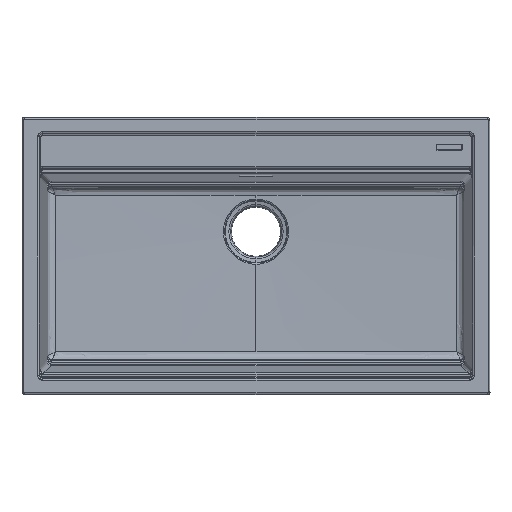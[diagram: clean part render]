
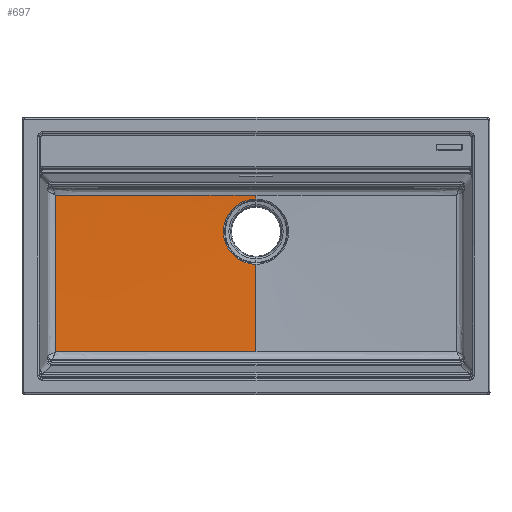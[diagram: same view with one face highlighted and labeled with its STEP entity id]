
A CAD part, top view. The second image highlights one B-rep face of the part: STEP entity #697.
In plain terms, the highlighted conical face has half-angle 88.5 degrees and reference radius 431.481 mm.
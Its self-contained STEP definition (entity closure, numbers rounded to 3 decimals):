
#413=(
BOUNDED_CURVE()
B_SPLINE_CURVE(3,(#10576,#10577,#10578,#10579,#10580,#10581,#10582,#10583,
#10584,#10585,#10586,#10587,#10588,#10589,#10590,#10591,#10592,#10593,#10594,
#10595,#10596,#10597,#10598,#10599,#10600,#10601),.UNSPECIFIED.,.F.,.F.)
B_SPLINE_CURVE_WITH_KNOTS((4,2,2,2,2,2,2,2,2,2,2,2,4),(0.,0.227,
0.356,0.484,0.549,0.613,0.678,
0.742,0.807,0.871,0.936,
0.968,1.),.UNSPECIFIED.)
CURVE()
GEOMETRIC_REPRESENTATION_ITEM()
RATIONAL_B_SPLINE_CURVE((1.,1.,1.,1.,1.,1.,1.,1.,1.,1.,1.,1.,1.,1.,1.,1.,
1.,1.,1.,1.,1.,1.,1.,1.,1.,1.))
REPRESENTATION_ITEM('')
);
#414=(
BOUNDED_CURVE()
B_SPLINE_CURVE(3,(#10610,#10611,#10612,#10613,#10614,#10615,#10616,#10617,
#10618,#10619,#10620,#10621),.UNSPECIFIED.,.F.,.F.)
B_SPLINE_CURVE_WITH_KNOTS((4,2,2,2,2,4),(0.,0.306,0.653,
0.826,0.999,1.),.UNSPECIFIED.)
CURVE()
GEOMETRIC_REPRESENTATION_ITEM()
RATIONAL_B_SPLINE_CURVE((1.,1.,1.,
1.,1.,1.,1.,
1.,1.,1.,1.,1.))
REPRESENTATION_ITEM('')
);
#415=(
BOUNDED_CURVE()
B_SPLINE_CURVE(3,(#10623,#10624,#10625,#10626,#10627,#10628,#10629,#10630,
#10631,#10632,#10633,#10634,#10635,#10636,#10637,#10638,#10639,#10640,#10641,
#10642),.UNSPECIFIED.,.F.,.F.)
B_SPLINE_CURVE_WITH_KNOTS((4,2,2,2,2,2,2,2,2,4),(0.,0.,
0.129,0.258,0.387,0.516,0.645,
0.773,0.902,1.),.UNSPECIFIED.)
CURVE()
GEOMETRIC_REPRESENTATION_ITEM()
RATIONAL_B_SPLINE_CURVE((1.,1.,1.,
1.,1.,1.,1.,
1.,1.,1.,1.,
1.,1.,1.,1.,
1.,1.,1.,1.,
1.))
REPRESENTATION_ITEM('')
);
#697=ADVANCED_FACE('',(#1227),#1179,.F.);
#1179=CONICAL_SURFACE('',#7836,431.481,88.5);
#1227=FACE_OUTER_BOUND('',#1712,.T.);
#1712=EDGE_LOOP('',(#3287,#3288,#3289,#3290,#3291,#3292,#3293,#3294));
#2222=B_SPLINE_CURVE_WITH_KNOTS('',3,(#10603,#10604,#10605,#10606,#10607,
#10608),.UNSPECIFIED.,.F.,.F.,(4,2,4),(0.,0.563,1.),
 .UNSPECIFIED.);
#2628=LINE('',#10574,#2930);
#2629=LINE('',#10644,#2931);
#2930=VECTOR('',#8634,1.);
#2931=VECTOR('',#8635,1.);
#3287=ORIENTED_EDGE('',*,*,#6308,.F.);
#3288=ORIENTED_EDGE('',*,*,#6309,.F.);
#3289=ORIENTED_EDGE('',*,*,#6310,.F.);
#3290=ORIENTED_EDGE('',*,*,#6311,.F.);
#3291=ORIENTED_EDGE('',*,*,#6312,.F.);
#3292=ORIENTED_EDGE('',*,*,#6313,.F.);
#3293=ORIENTED_EDGE('',*,*,#6314,.T.);
#3294=ORIENTED_EDGE('',*,*,#6315,.F.);
#5619=VERTEX_POINT('',#10572);
#5620=VERTEX_POINT('',#10573);
#5621=VERTEX_POINT('',#10575);
#5622=VERTEX_POINT('',#10602);
#5623=VERTEX_POINT('',#10609);
#5624=VERTEX_POINT('',#10622);
#5625=VERTEX_POINT('',#10643);
#5626=VERTEX_POINT('',#10645);
#6308=EDGE_CURVE('',#5619,#5620,#7422,.T.);
#6309=EDGE_CURVE('',#5621,#5619,#2628,.T.);
#6310=EDGE_CURVE('',#5622,#5621,#413,.T.);
#6311=EDGE_CURVE('',#5623,#5622,#2222,.T.);
#6312=EDGE_CURVE('',#5624,#5623,#414,.T.);
#6313=EDGE_CURVE('',#5625,#5624,#415,.T.);
#6314=EDGE_CURVE('',#5625,#5626,#2629,.T.);
#6315=EDGE_CURVE('',#5620,#5626,#7423,.T.);
#7422=CIRCLE('',#7834,59.941);
#7423=CIRCLE('',#7835,59.941);
#7834=AXIS2_PLACEMENT_3D('',#10571,#8632,#8633);
#7835=AXIS2_PLACEMENT_3D('',#10646,#8636,#8637);
#7836=AXIS2_PLACEMENT_3D('',#10647,#8638,#8639);
#8632=DIRECTION('',(0.,0.,1.));
#8633=DIRECTION('',(0.,-1.,0.));
#8634=DIRECTION('',(0.,-1.,-0.026));
#8635=DIRECTION('',(0.,1.,-0.026));
#8636=DIRECTION('',(0.,0.,1.));
#8637=DIRECTION('',(0.,-1.,0.));
#8638=DIRECTION('',(0.,0.,1.));
#8639=DIRECTION('',(0.,1.,0.));
#10571=CARTESIAN_POINT('',(0.,-257.16,-112.625));
#10572=CARTESIAN_POINT('',(0.,-197.219,-112.625));
#10573=CARTESIAN_POINT('',(-59.941,-257.16,-112.625));
#10574=CARTESIAN_POINT('',(0.,174.321,-102.896));
#10575=CARTESIAN_POINT('',(0.,-190.187,-112.441));
#10576=CARTESIAN_POINT('',(-368.103,-189.805,-104.395));
#10577=CARTESIAN_POINT('',(-340.329,-189.863,-105.111));
#10578=CARTESIAN_POINT('',(-312.554,-189.919,-105.824));
#10579=CARTESIAN_POINT('',(-268.977,-190.003,-106.935));
#10580=CARTESIAN_POINT('',(-253.175,-190.033,-107.337));
#10581=CARTESIAN_POINT('',(-221.569,-190.09,-108.134));
#10582=CARTESIAN_POINT('',(-205.765,-190.117,-108.529));
#10583=CARTESIAN_POINT('',(-182.058,-190.154,-109.115));
#10584=CARTESIAN_POINT('',(-174.156,-190.165,-109.309));
#10585=CARTESIAN_POINT('',(-158.349,-190.187,-109.693));
#10586=CARTESIAN_POINT('',(-150.446,-190.197,-109.883));
#10587=CARTESIAN_POINT('',(-134.637,-190.215,-110.258));
#10588=CARTESIAN_POINT('',(-126.732,-190.222,-110.443));
#10589=CARTESIAN_POINT('',(-110.919,-190.234,-110.804));
#10590=CARTESIAN_POINT('',(-103.011,-190.239,-110.98));
#10591=CARTESIAN_POINT('',(-87.191,-190.243,-111.319));
#10592=CARTESIAN_POINT('',(-79.279,-190.243,-111.482));
#10593=CARTESIAN_POINT('',(-63.445,-190.238,-111.784));
#10594=CARTESIAN_POINT('',(-55.525,-190.233,-111.924));
#10595=CARTESIAN_POINT('',(-39.67,-190.218,-112.164));
#10596=CARTESIAN_POINT('',(-31.736,-190.208,-112.264));
#10597=CARTESIAN_POINT('',(-19.823,-190.197,-112.368));
#10598=CARTESIAN_POINT('',(-15.851,-190.193,-112.395));
#10599=CARTESIAN_POINT('',(-7.919,-190.189,-112.431));
#10600=CARTESIAN_POINT('',(-3.959,-190.187,-112.441));
#10601=CARTESIAN_POINT('',(0.,-190.187,-112.441));
#10602=CARTESIAN_POINT('',(-368.103,-189.805,-104.395));
#10603=CARTESIAN_POINT('',(-368.095,-257.16,-104.556));
#10604=CARTESIAN_POINT('',(-368.095,-244.514,-104.556));
#10605=CARTESIAN_POINT('',(-368.096,-231.867,-104.538));
#10606=CARTESIAN_POINT('',(-368.099,-209.416,-104.478));
#10607=CARTESIAN_POINT('',(-368.1,-199.61,-104.442));
#10608=CARTESIAN_POINT('',(-368.103,-189.805,-104.395));
#10609=CARTESIAN_POINT('',(-368.095,-257.16,-104.556));
#10610=CARTESIAN_POINT('',(-368.179,-477.87,-102.954));
#10611=CARTESIAN_POINT('',(-368.162,-455.34,-103.258));
#10612=CARTESIAN_POINT('',(-368.147,-432.807,-103.527));
#10613=CARTESIAN_POINT('',(-368.121,-384.804,-104.01));
#10614=CARTESIAN_POINT('',(-368.111,-359.332,-104.212));
#10615=CARTESIAN_POINT('',(-368.102,-321.121,-104.416));
#10616=CARTESIAN_POINT('',(-368.099,-308.383,-104.468));
#10617=CARTESIAN_POINT('',(-368.096,-282.908,-104.538));
#10618=CARTESIAN_POINT('',(-368.095,-270.171,-104.555));
#10619=CARTESIAN_POINT('',(-368.095,-257.342,-104.556));
#10620=CARTESIAN_POINT('',(-368.095,-257.251,-104.556));
#10621=CARTESIAN_POINT('',(-368.095,-257.16,-104.556));
#10622=CARTESIAN_POINT('',(-368.179,-477.87,-102.954));
#10623=CARTESIAN_POINT('',(0.,-477.582,-108.423));
#10624=CARTESIAN_POINT('',(-0.009,-477.582,-108.423));
#10625=CARTESIAN_POINT('',(-0.019,-477.582,-108.423));
#10626=CARTESIAN_POINT('',(-15.866,-477.582,-108.422));
#10627=CARTESIAN_POINT('',(-31.702,-477.583,-108.377));
#10628=CARTESIAN_POINT('',(-63.37,-477.587,-108.202));
#10629=CARTESIAN_POINT('',(-79.201,-477.59,-108.073));
#10630=CARTESIAN_POINT('',(-110.856,-477.6,-107.744));
#10631=CARTESIAN_POINT('',(-126.68,-477.607,-107.546));
#10632=CARTESIAN_POINT('',(-158.322,-477.625,-107.096));
#10633=CARTESIAN_POINT('',(-174.14,-477.636,-106.844));
#10634=CARTESIAN_POINT('',(-205.771,-477.662,-106.303));
#10635=CARTESIAN_POINT('',(-221.585,-477.677,-106.013));
#10636=CARTESIAN_POINT('',(-253.208,-477.711,-105.406));
#10637=CARTESIAN_POINT('',(-269.018,-477.73,-105.088));
#10638=CARTESIAN_POINT('',(-300.635,-477.771,-104.433));
#10639=CARTESIAN_POINT('',(-316.442,-477.793,-104.095));
#10640=CARTESIAN_POINT('',(-344.226,-477.833,-103.489));
#10641=CARTESIAN_POINT('',(-356.203,-477.851,-103.223));
#10642=CARTESIAN_POINT('',(-368.179,-477.87,-102.954));
#10643=CARTESIAN_POINT('',(0.,-477.582,-108.423));
#10644=CARTESIAN_POINT('',(0.,-688.642,-102.896));
#10645=CARTESIAN_POINT('',(0.,-317.101,-112.625));
#10646=CARTESIAN_POINT('',(0.,-257.16,-112.625));
#10647=CARTESIAN_POINT('',(0.,-257.16,-102.896));
